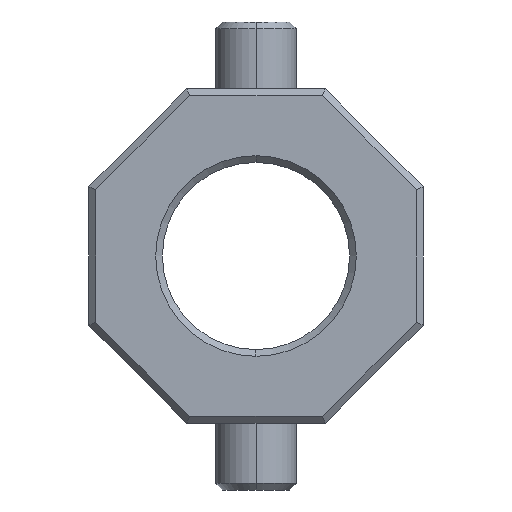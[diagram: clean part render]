
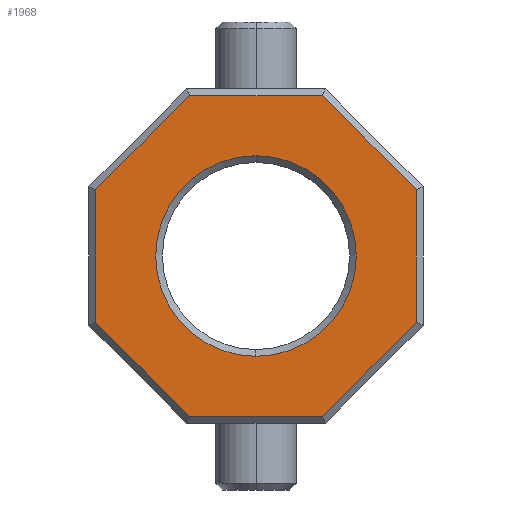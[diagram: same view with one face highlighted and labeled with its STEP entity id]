
A CAD part, left-side view. The second image highlights one B-rep face of the part: STEP entity #1968.
In plain terms, the highlighted planar face has unit normal (-1, 0, 0).
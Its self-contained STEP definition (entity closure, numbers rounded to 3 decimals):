
#9 = LINE ( 'NONE', #642, #721 ) ;
#13 = VERTEX_POINT ( 'NONE', #1562 ) ;
#74 = DIRECTION ( 'NONE',  ( 0., 0., 1. ) ) ;
#122 = EDGE_CURVE ( 'NONE', #1519, #1933, #147, .T. ) ;
#142 = CARTESIAN_POINT ( 'NONE',  ( -10., 24., -9.941 ) ) ;
#147 = LINE ( 'NONE', #610, #1112 ) ;
#174 = DIRECTION ( 'NONE',  ( 1., 0., 0. ) ) ;
#252 = AXIS2_PLACEMENT_3D ( 'NONE', #709, #1825, #74 ) ;
#255 = AXIS2_PLACEMENT_3D ( 'NONE', #1239, #174, #627 ) ;
#259 = VECTOR ( 'NONE', #679, 1000. ) ;
#311 = DIRECTION ( 'NONE',  ( 0., 0.707, 0.707 ) ) ;
#321 = EDGE_CURVE ( 'NONE', #1831, #1237, #1023, .T. ) ;
#324 = DIRECTION ( 'NONE',  ( 1., 0., 0. ) ) ;
#334 = ORIENTED_EDGE ( 'NONE', *, *, #1847, .T. ) ;
#341 = DIRECTION ( 'NONE',  ( 0., 1., 0. ) ) ;
#389 = PLANE ( 'NONE',  #252 ) ;
#435 = CARTESIAN_POINT ( 'NONE',  ( -10., -9.941, 24. ) ) ;
#458 = CARTESIAN_POINT ( 'NONE',  ( -10., 0., -24. ) ) ;
#482 = VECTOR ( 'NONE', #1525, 1000. ) ;
#511 = AXIS2_PLACEMENT_3D ( 'NONE', #806, #324, #1284 ) ;
#540 = ORIENTED_EDGE ( 'NONE', *, *, #321, .T. ) ;
#545 = FACE_OUTER_BOUND ( 'NONE', #2027, .T. ) ;
#601 = LINE ( 'NONE', #1412, #783 ) ;
#607 = EDGE_CURVE ( 'NONE', #880, #1298, #1611, .T. ) ;
#610 = CARTESIAN_POINT ( 'NONE',  ( -10., 16.971, -16.971 ) ) ;
#627 = DIRECTION ( 'NONE',  ( 0., 0., 1. ) ) ;
#642 = CARTESIAN_POINT ( 'NONE',  ( -10., -16.971, 16.971 ) ) ;
#679 = DIRECTION ( 'NONE',  ( 0., -0.707, 0.707 ) ) ;
#709 = CARTESIAN_POINT ( 'NONE',  ( -10., 0., 0. ) ) ;
#718 = ORIENTED_EDGE ( 'NONE', *, *, #1288, .T. ) ;
#721 = VECTOR ( 'NONE', #311, 1000. ) ;
#783 = VECTOR ( 'NONE', #2046, 1000. ) ;
#806 = CARTESIAN_POINT ( 'NONE',  ( -10., 0., 0. ) ) ;
#862 = EDGE_CURVE ( 'NONE', #1878, #13, #1856, .T. ) ;
#880 = VERTEX_POINT ( 'NONE', #1514 ) ;
#884 = CIRCLE ( 'NONE', #255, 15. ) ;
#899 = CARTESIAN_POINT ( 'NONE',  ( -10., 0., -15. ) ) ;
#934 = LINE ( 'NONE', #981, #1846 ) ;
#935 = ORIENTED_EDGE ( 'NONE', *, *, #1441, .T. ) ;
#944 = ORIENTED_EDGE ( 'NONE', *, *, #1799, .T. ) ;
#961 = VECTOR ( 'NONE', #1276, 1000. ) ;
#978 = EDGE_CURVE ( 'NONE', #1298, #880, #884, .T. ) ;
#981 = CARTESIAN_POINT ( 'NONE',  ( -10., 0., 24. ) ) ;
#1022 = ORIENTED_EDGE ( 'NONE', *, *, #607, .T. ) ;
#1023 = LINE ( 'NONE', #1803, #259 ) ;
#1030 = FACE_BOUND ( 'NONE', #1150, .T. ) ;
#1051 = LINE ( 'NONE', #1230, #1556 ) ;
#1080 = LINE ( 'NONE', #458, #961 ) ;
#1112 = VECTOR ( 'NONE', #1881, 1000. ) ;
#1126 = ORIENTED_EDGE ( 'NONE', *, *, #862, .T. ) ;
#1149 = CARTESIAN_POINT ( 'NONE',  ( -10., -24., 9.941 ) ) ;
#1150 = EDGE_LOOP ( 'NONE', ( #1022, #1987 ) ) ;
#1163 = CARTESIAN_POINT ( 'NONE',  ( -10., 9.941, -24. ) ) ;
#1164 = ORIENTED_EDGE ( 'NONE', *, *, #122, .T. ) ;
#1206 = DIRECTION ( 'NONE',  ( 0., 0., 1. ) ) ;
#1230 = CARTESIAN_POINT ( 'NONE',  ( -10., -24., 0. ) ) ;
#1237 = VERTEX_POINT ( 'NONE', #1925 ) ;
#1239 = CARTESIAN_POINT ( 'NONE',  ( -10., 0., 0. ) ) ;
#1265 = ORIENTED_EDGE ( 'NONE', *, *, #1479, .T. ) ;
#1276 = DIRECTION ( 'NONE',  ( 0., -1., 0. ) ) ;
#1284 = DIRECTION ( 'NONE',  ( 0., 0., 1. ) ) ;
#1288 = EDGE_CURVE ( 'NONE', #1237, #1582, #1051, .T. ) ;
#1298 = VERTEX_POINT ( 'NONE', #899 ) ;
#1385 = VERTEX_POINT ( 'NONE', #435 ) ;
#1387 = CARTESIAN_POINT ( 'NONE',  ( -10., 16.971, 16.971 ) ) ;
#1412 = CARTESIAN_POINT ( 'NONE',  ( -10., 24., 0. ) ) ;
#1441 = EDGE_CURVE ( 'NONE', #1582, #1385, #9, .T. ) ;
#1479 = EDGE_CURVE ( 'NONE', #1933, #1831, #1080, .T. ) ;
#1514 = CARTESIAN_POINT ( 'NONE',  ( -10., 0., 15. ) ) ;
#1519 = VERTEX_POINT ( 'NONE', #142 ) ;
#1525 = DIRECTION ( 'NONE',  ( 0., 0.707, -0.707 ) ) ;
#1556 = VECTOR ( 'NONE', #1206, 1000. ) ;
#1562 = CARTESIAN_POINT ( 'NONE',  ( -10., 24., 9.941 ) ) ;
#1582 = VERTEX_POINT ( 'NONE', #1149 ) ;
#1611 = CIRCLE ( 'NONE', #511, 15. ) ;
#1617 = CARTESIAN_POINT ( 'NONE',  ( -10., -9.941, -24. ) ) ;
#1799 = EDGE_CURVE ( 'NONE', #1385, #1878, #934, .T. ) ;
#1803 = CARTESIAN_POINT ( 'NONE',  ( -10., -16.971, -16.971 ) ) ;
#1825 = DIRECTION ( 'NONE',  ( -1., 0., 0. ) ) ;
#1831 = VERTEX_POINT ( 'NONE', #1617 ) ;
#1846 = VECTOR ( 'NONE', #341, 1000. ) ;
#1847 = EDGE_CURVE ( 'NONE', #13, #1519, #601, .T. ) ;
#1856 = LINE ( 'NONE', #1387, #482 ) ;
#1878 = VERTEX_POINT ( 'NONE', #1901 ) ;
#1881 = DIRECTION ( 'NONE',  ( 0., -0.707, -0.707 ) ) ;
#1901 = CARTESIAN_POINT ( 'NONE',  ( -10., 9.941, 24. ) ) ;
#1925 = CARTESIAN_POINT ( 'NONE',  ( -10., -24., -9.941 ) ) ;
#1933 = VERTEX_POINT ( 'NONE', #1163 ) ;
#1968 = ADVANCED_FACE ( 'NONE', ( #545, #1030 ), #389, .T. ) ;
#1987 = ORIENTED_EDGE ( 'NONE', *, *, #978, .T. ) ;
#2027 = EDGE_LOOP ( 'NONE', ( #1164, #1265, #540, #718, #935, #944, #1126, #334 ) ) ;
#2046 = DIRECTION ( 'NONE',  ( 0., 0., -1. ) ) ;
